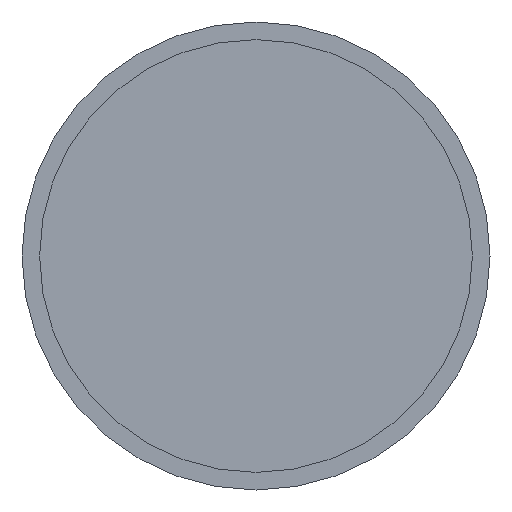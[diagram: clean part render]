
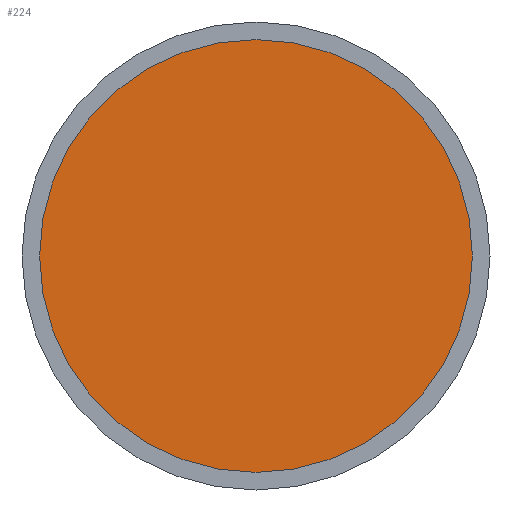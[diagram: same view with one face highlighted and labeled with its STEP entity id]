
A CAD part, left-side view. The second image highlights one B-rep face of the part: STEP entity #224.
In plain terms, the highlighted planar face has unit normal (-1, 0, 0).
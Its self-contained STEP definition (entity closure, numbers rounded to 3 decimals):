
#24=PLANE('',#282);
#36=FACE_OUTER_BOUND('',#50,.T.);
#50=EDGE_LOOP('',(#207,#208));
#65=CIRCLE('',#248,1.845);
#66=CIRCLE('',#249,1.845);
#91=VERTEX_POINT('',#373);
#92=VERTEX_POINT('',#375);
#116=EDGE_CURVE('',#91,#92,#65,.T.);
#117=EDGE_CURVE('',#92,#91,#66,.T.);
#207=ORIENTED_EDGE('',*,*,#117,.F.);
#208=ORIENTED_EDGE('',*,*,#116,.F.);
#224=ADVANCED_FACE('',(#36),#24,.T.);
#248=AXIS2_PLACEMENT_3D('',#376,#292,#293);
#249=AXIS2_PLACEMENT_3D('',#377,#294,#295);
#282=AXIS2_PLACEMENT_3D('',#435,#365,#366);
#292=DIRECTION('center_axis',(1.,0.,0.));
#293=DIRECTION('ref_axis',(0.,1.,0.));
#294=DIRECTION('center_axis',(1.,0.,0.));
#295=DIRECTION('ref_axis',(0.,1.,0.));
#365=DIRECTION('center_axis',(-1.,0.,0.));
#366=DIRECTION('ref_axis',(0.,0.,1.));
#373=CARTESIAN_POINT('',(0.,-1.845,0.));
#375=CARTESIAN_POINT('',(0.,1.845,0.));
#376=CARTESIAN_POINT('Origin',(0.,0.,0.));
#377=CARTESIAN_POINT('Origin',(0.,0.,0.));
#435=CARTESIAN_POINT('Origin',(0.,0.923,0.));
